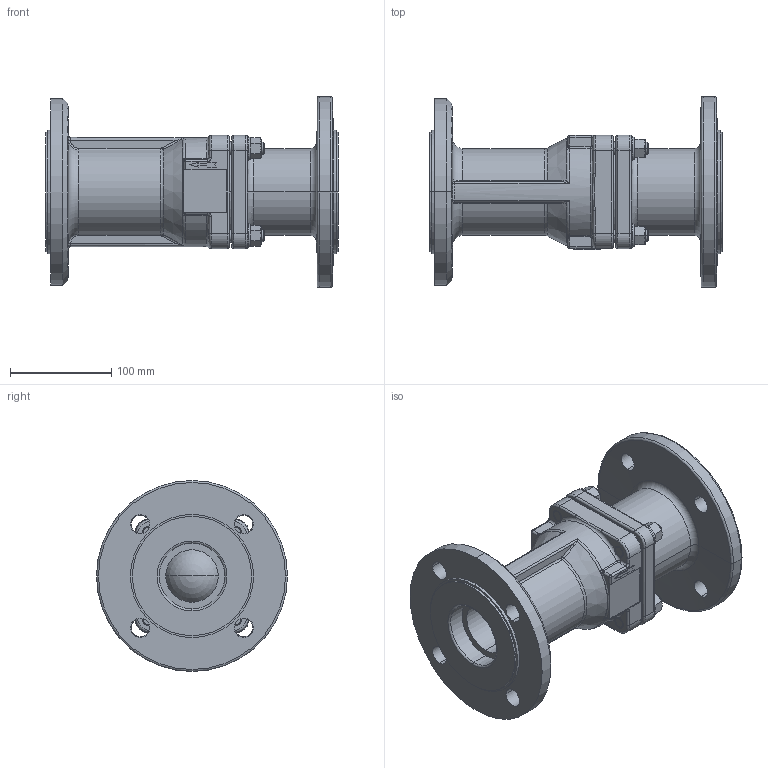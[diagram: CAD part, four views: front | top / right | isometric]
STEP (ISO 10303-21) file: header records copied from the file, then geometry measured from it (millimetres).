
FILE_DESCRIPTION((''),'2;1');
FILE_NAME('9595-65-0305_E_CV65_PROE','2015-03-24T',('SParmar1'),(''),'PRO/ENGINEER BY PARAMETRIC TECHNOLOGY CORPORATION, 2011040','PRO/ENGINEER BY PARAMETRIC TECHNOLOGY CORPORATION, 2011040','');
FILE_SCHEMA(('CONFIG_CONTROL_DESIGN'));
Length unit declared in the file: millimetre
Products named in the file (1): 9595-65-0305_E_CV65_PROE
Bounding box: 290 x 189 x 189 mm (x, y, z)
Volume: 2301010.5 mm3; surface area: 281585.2 mm2
Topology: 1 solids, 13 shells, 910 faces, 2363 edges, 1513 vertices
Faces by surface type: extrusion 287, plane 274, cylinder 166, cone 82, bspline 49, torus 44, sphere 8
Entity records: 31319 total; most frequent: CARTESIAN_POINT 10555, ORIENTED_EDGE 4662, DIRECTION 3408, EDGE_CURVE 2359, VERTEX_POINT 1513, VECTOR 1292, B_SPLINE_CURVE_WITH_KNOTS 1158, AXIS2_PLACEMENT_3D 1058
